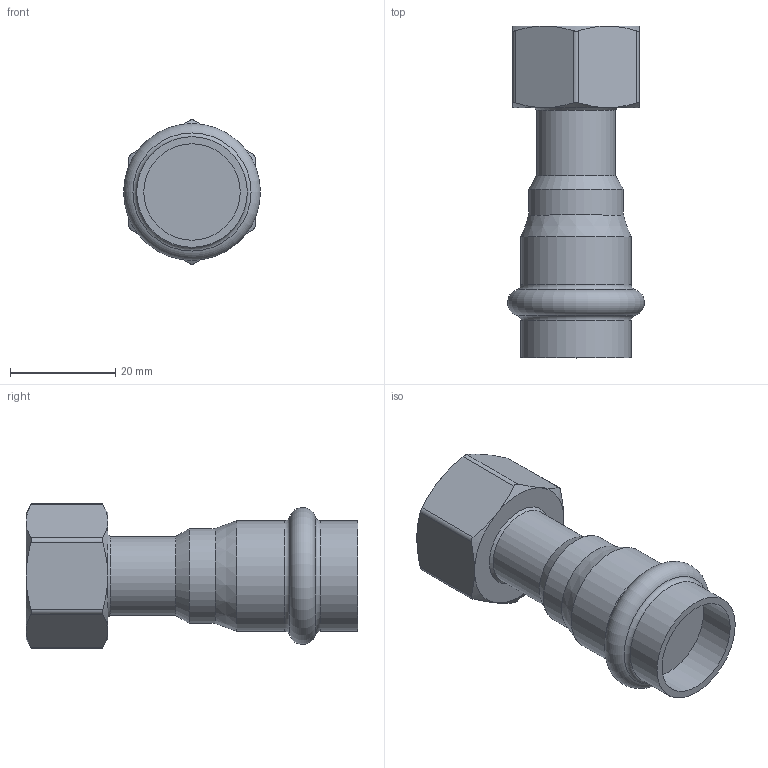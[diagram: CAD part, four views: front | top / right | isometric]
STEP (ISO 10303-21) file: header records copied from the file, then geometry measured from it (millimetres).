
FILE_DESCRIPTION(('STEP AP203'), '1');
FILE_NAME('VTi.908.I.001804', '', ('UNSPECIFIED'), ('UNSPECIFIED'), 'C3D Converter', 'C3D Toolkit', '');
FILE_SCHEMA(('CONFIG_CONTROL_DESIGN'));
Length unit declared in the file: millimetre
Bounding box: 25.99 x 63 x 27.4 mm (x, y, z)
Volume: 17445.8 mm3; surface area: 6300.3 mm2
Topology: 1 solids, 1 shells, 41 faces, 88 edges, 52 vertices
Faces by surface type: cone 15, cylinder 12, plane 11, torus 3
Full cylindrical faces by diameter (mm): 15 x1, 18 x1, 18.3 x1, 18.632 x1, 21 x2
Entity records: 1885 total; most frequent: CARTESIAN_POINT 1059, DIRECTION 152, ORIENTED_EDGE 150, EDGE_CURVE 75, AXIS2_PLACEMENT_3D 70, EDGE_LOOP 57, VERTEX_POINT 52, ADVANCED_FACE 41
